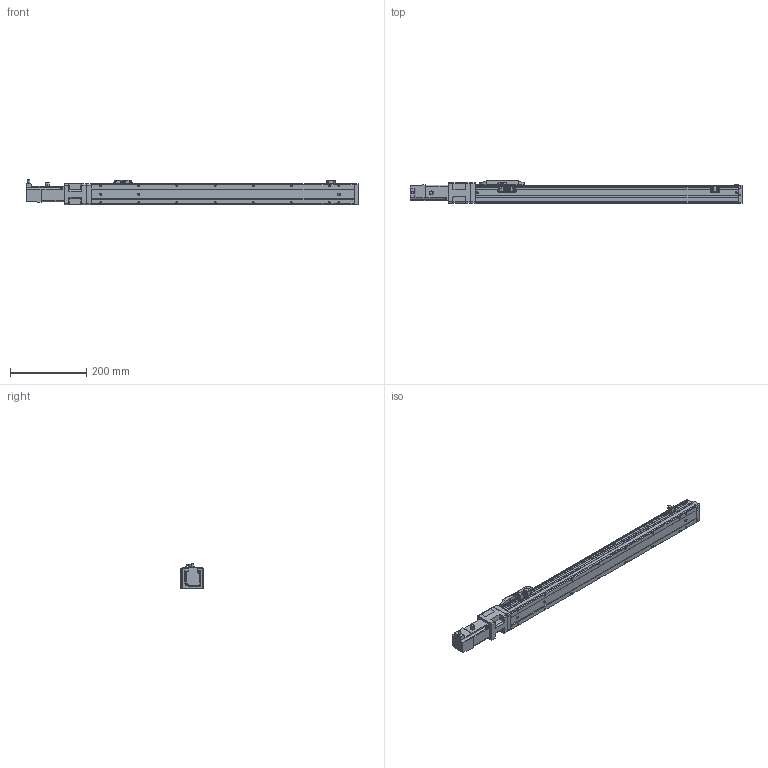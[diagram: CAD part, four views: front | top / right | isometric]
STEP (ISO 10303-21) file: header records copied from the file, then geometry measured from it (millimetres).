
FILE_DESCRIPTION (( 'STEP AP203' ), '1' );
FILE_NAME ('CTH5-L10-S550-BC-C10(¼ò).STEP', '2023-02-04T02:07:45', ( '' ), ( '' ), 'SwSTEP 2.0', 'SolidWorks 2018', '' );
FILE_SCHEMA (( 'CONFIG_CONTROL_DESIGN' ));
Length unit declared in the file: millimetre
Products named in the file (21): 嫖萇羲壽郪磁1; CTH5萇儂釱欶; PM-Y45; hex nuts, style 1-grades ab gb_GB_FASTENER_NUT_SNAB1 M3-N; 100W萇儂; CTH5-L10-S550-BC-C10(潠); CTH5耜晚蹟隊; CTH5覜茼え; 葩璃 蚾饜极13^CTH8-L10-S50-BM-C40(潠)1; T10-p1; M3｡｣; CTH5-BC-03; 内六角圆柱头螺钉M3-2; CTH5菁釱-L690; CTH5ヶ耜啣(潠); CTH5萇儂釱; CTH5賑怢; M3; CTH5耜晚蹟隊-1; CTH嫖萇羲壽假蚾啣; CTH5綴耜啣
Assembly tree (37 placements, depth 3):
  CTH5-L10-S550-BC-C10(潠)
    CTH5綴耜啣
    CTH5賑怢
    CTH5ヶ耜啣(潠)
    CTH5菁釱-L690
    CTH5耜晚蹟隊  x2
    CTH5萇儂釱
      CTH5-BC-03
    CTH5萇儂釱欶
    100W萇儂
      T10-p1
    嫖萇羲壽郪磁1  x2
      CTH嫖萇羲壽假蚾啣
      PM-Y45
      M3｡｣
      内六角圆柱头螺钉M3-2
      hex nuts, style 1-grades ab gb_GB_FASTENER_NUT_SNAB1 M3-N
    CTH5覜茼え
    葩璃 蚾饜极13^CTH8-L10-S50-BM-C40(潠)1
      CTH嫖萇羲壽假蚾啣
      PM-Y45
      内六角圆柱头螺钉M3-2  x2
      M3｡｣  x2
      hex nuts, style 1-grades ab gb_GB_FASTENER_NUT_SNAB1 M3-N  x2
    M3  x2
    CTH5耜晚蹟隊-1  x4
Bounding box: 871.1 x 60 x 65.7 mm (x, y, z)
Volume: 1819114.6 mm3; surface area: 263322.3 mm2
Topology: 40 solids, 40 shells, 1539 faces, 3846 edges, 2478 vertices
Faces by surface type: plane 848, cylinder 446, cone 183, torus 44, bspline 18
Entity records: 34647 total; most frequent: CARTESIAN_POINT 6360, DIRECTION 5482, ORIENTED_EDGE 5240, EDGE_CURVE 2620, AXIS2_PLACEMENT_3D 1895, VECTOR 1692, LINE 1692, VERTEX_POINT 1684
